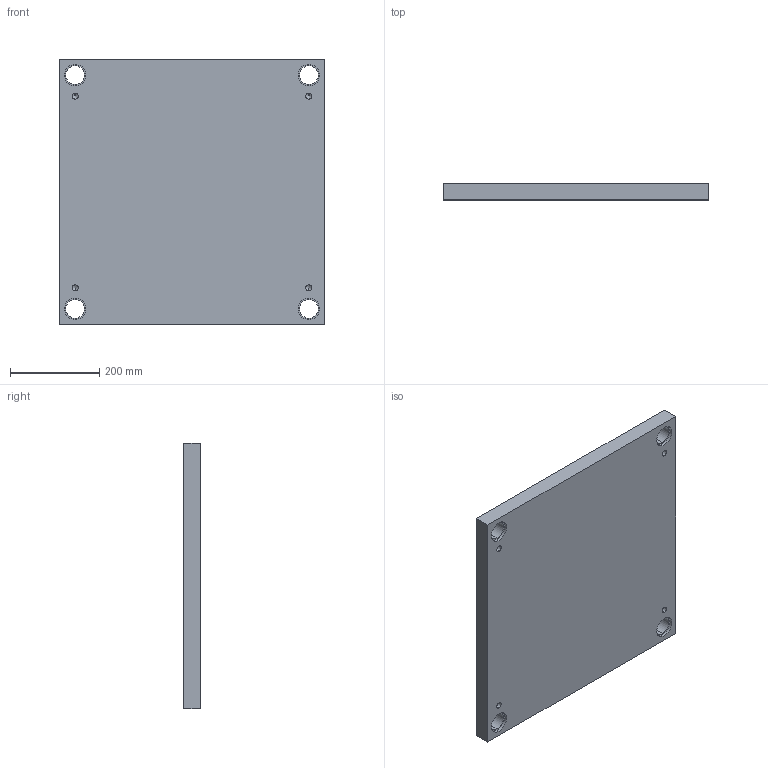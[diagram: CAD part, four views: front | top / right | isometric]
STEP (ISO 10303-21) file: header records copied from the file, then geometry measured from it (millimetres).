
FILE_DESCRIPTION (( 'STEP AP214' ), '1' );
FILE_NAME ('L35_596x596x036.STEP', '2018-10-10T21:03:26', ( '' ), ( '' ), 'SwSTEP 2.0', 'SolidWorks 2014', '' );
FILE_SCHEMA (( 'AUTOMOTIVE_DESIGN' ));
Length unit declared in the file: millimetre
Products named in the file (1): L35_596x596x036
Bounding box: 595.7 x 36 x 595.7 mm (x, y, z)
Volume: 12548354.6 mm3; surface area: 808493.8 mm2
Topology: 1 solids, 1 shells, 42 faces, 100 edges, 60 vertices
Faces by surface type: cylinder 24, plane 10, cone 8
Entity records: 1222 total; most frequent: DIRECTION 226, CARTESIAN_POINT 195, ORIENTED_EDGE 184, EDGE_CURVE 92, AXIS2_PLACEMENT_3D 91, VERTEX_POINT 60, EDGE_LOOP 58, CIRCLE 48
